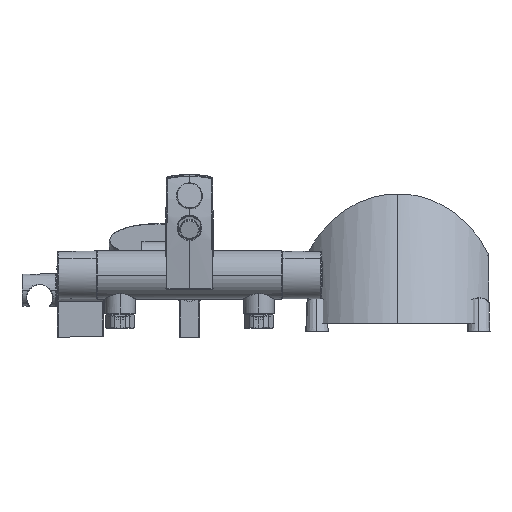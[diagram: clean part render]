
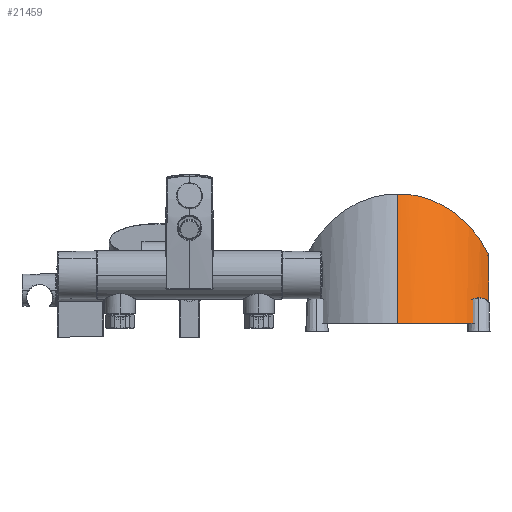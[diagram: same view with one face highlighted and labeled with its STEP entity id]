
A CAD part, front view. The second image highlights one B-rep face of the part: STEP entity #21459.
In plain terms, the highlighted cylindrical face has radius 111.144 mm (diameter 222.289 mm), a partial arc.
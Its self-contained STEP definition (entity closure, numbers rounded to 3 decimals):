
#63 = ORIENTED_EDGE ( 'NONE', *, *, #11114, .F. ) ;
#264 =( BOUNDED_CURVE ( )  B_SPLINE_CURVE ( 3, ( #2564, #2800, #2439, #2402 ),
 .UNSPECIFIED., .F., .F. ) 
 B_SPLINE_CURVE_WITH_KNOTS ( ( 4, 4 ),
 ( 5.201, 6.176 ),
 .UNSPECIFIED. ) 
 CURVE ( )  GEOMETRIC_REPRESENTATION_ITEM ( )  RATIONAL_B_SPLINE_CURVE ( ( 1., 0.922, 0.922, 1. ) ) 
 REPRESENTATION_ITEM ( '' )  );
#1427 = EDGE_CURVE ( 'NONE', #17015, #2975, #4251, .T. ) ;
#2402 = CARTESIAN_POINT ( 'NONE',  ( 356.05, 194.362, 406.685 ) ) ;
#2414 = DIRECTION ( 'NONE',  ( 0., 0.559, 0.829 ) ) ;
#2439 = CARTESIAN_POINT ( 'NONE',  ( 393.483, 196.19, 402.196 ) ) ;
#2564 = CARTESIAN_POINT ( 'NONE',  ( 442.325, 220.866, 341.587 ) ) ;
#2778 = ORIENTED_EDGE ( 'NONE', *, *, #9457, .T. ) ;
#2800 = CARTESIAN_POINT ( 'NONE',  ( 424.665, 205.769, 378.667 ) ) ;
#2975 = VERTEX_POINT ( 'NONE', #10893 ) ;
#3643 = AXIS2_PLACEMENT_3D ( 'NONE', #19315, #19260, #19254 ) ;
#4070 = VERTEX_POINT ( 'NONE', #17098 ) ;
#4251 = LINE ( 'NONE', #22802, #17107 ) ;
#4548 = CARTESIAN_POINT ( 'NONE',  ( 344.165, 185.322, 195.664 ) ) ;
#5053 = EDGE_LOOP ( 'NONE', ( #5756, #6947, #24449, #2778, #63 ) ) ;
#5094 = CARTESIAN_POINT ( 'NONE',  ( 442.325, 170.746, 267.28 ) ) ;
#5756 = ORIENTED_EDGE ( 'NONE', *, *, #1427, .F. ) ;
#6041 = CARTESIAN_POINT ( 'NONE',  ( 344.165, 99.639, 267.393 ) ) ;
#6947 = ORIENTED_EDGE ( 'NONE', *, *, #20447, .T. ) ;
#9457 = EDGE_CURVE ( 'NONE', #4070, #20754, #264, .T. ) ;
#10893 = CARTESIAN_POINT ( 'NONE',  ( 344.165, 193.833, 407.041 ) ) ;
#11114 = EDGE_CURVE ( 'NONE', #2975, #20754, #12056, .T. ) ;
#11804 =( BOUNDED_CURVE ( )  B_SPLINE_CURVE ( 3, ( #6041, #24736, #12387, #26746 ),
 .UNSPECIFIED., .F., .T. ) 
 B_SPLINE_CURVE_WITH_KNOTS ( ( 4, 4 ),
 ( 3.142, 4.224 ),
 .UNSPECIFIED. ) 
 CURVE ( )  GEOMETRIC_REPRESENTATION_ITEM ( )  RATIONAL_B_SPLINE_CURVE ( ( 1., 0.905, 0.905, 1. ) ) 
 REPRESENTATION_ITEM ( '' )  );
#12036 = EDGE_CURVE ( 'NONE', #14222, #4070, #13132, .T. ) ;
#12056 = CIRCLE ( 'NONE', #3643, 111.144 ) ;
#12387 = CARTESIAN_POINT ( 'NONE',  ( 422.531, 125.838, 267.352 ) ) ;
#12588 = FACE_OUTER_BOUND ( 'NONE', #5053, .T. ) ;
#13132 = LINE ( 'NONE', #17917, #13782 ) ;
#13585 = CARTESIAN_POINT ( 'NONE',  ( 356.05, 194.362, 406.685 ) ) ;
#13782 = VECTOR ( 'NONE', #17613, 1000. ) ;
#14222 = VERTEX_POINT ( 'NONE', #5094 ) ;
#15497 = CARTESIAN_POINT ( 'NONE',  ( 344.165, 99.639, 267.393 ) ) ;
#17015 = VERTEX_POINT ( 'NONE', #15497 ) ;
#17098 = CARTESIAN_POINT ( 'NONE',  ( 442.325, 220.866, 341.587 ) ) ;
#17107 = VECTOR ( 'NONE', #26575, 1000. ) ;
#17613 = DIRECTION ( 'NONE',  ( 0., 0.559, 0.829 ) ) ;
#17917 = CARTESIAN_POINT ( 'NONE',  ( 442.325, 142.102, 224.815 ) ) ;
#19206 = DIRECTION ( 'NONE',  ( 0., -0.829, 0.559 ) ) ;
#19254 = DIRECTION ( 'NONE',  ( 0., -0.829, 0.559 ) ) ;
#19260 = DIRECTION ( 'NONE',  ( 0., 0.559, 0.829 ) ) ;
#19315 = CARTESIAN_POINT ( 'NONE',  ( 344.165, 285.976, 344.89 ) ) ;
#19399 = CYLINDRICAL_SURFACE ( 'NONE', #26757, 111.144 ) ;
#20447 = EDGE_CURVE ( 'NONE', #17015, #14222, #11804, .T. ) ;
#20754 = VERTEX_POINT ( 'NONE', #13585 ) ;
#21459 = ADVANCED_FACE ( 'NONE', ( #12588 ), #19399, .T. ) ;
#22802 = CARTESIAN_POINT ( 'NONE',  ( 344.165, 93.179, 257.815 ) ) ;
#24449 = ORIENTED_EDGE ( 'NONE', *, *, #12036, .T. ) ;
#24736 = CARTESIAN_POINT ( 'NONE',  ( 386.364, 99.639, 267.393 ) ) ;
#26575 = DIRECTION ( 'NONE',  ( 0., 0.559, 0.829 ) ) ;
#26746 = CARTESIAN_POINT ( 'NONE',  ( 442.325, 170.746, 267.28 ) ) ;
#26757 = AXIS2_PLACEMENT_3D ( 'NONE', #4548, #2414, #19206 ) ;
